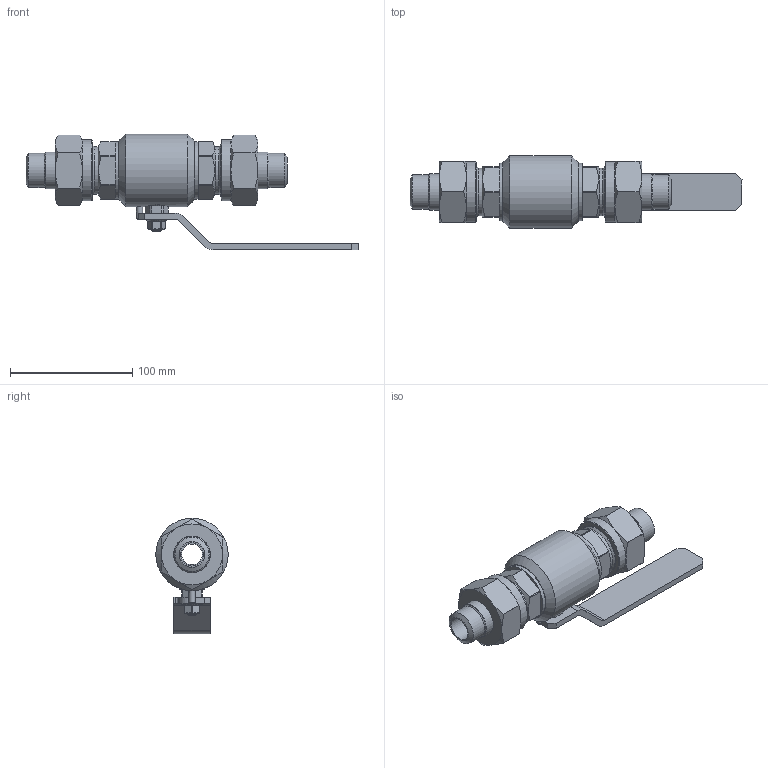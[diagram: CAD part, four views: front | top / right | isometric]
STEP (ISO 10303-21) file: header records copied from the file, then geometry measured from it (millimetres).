
FILE_DESCRIPTION(('STEP AP203'), '1');
FILE_NAME('ZARD 020.200.30.P.stp', '2013-12-05T12:55:24', ('User'), ('Computer'), 'ASCON STEP Converter 1.3', 'Kompas 3D', '');
FILE_SCHEMA(('CONFIG_CONTROL_DESIGN','SUPPORT_RESOURCE_SCHEMA'));
Length unit declared in the file: millimetre
Products named in the file (1): 196
Bounding box: 272 x 59.3 x 94.65 mm (x, y, z)
Volume: 327038 mm3; surface area: 77090.5 mm2
Topology: 1 solids, 6 shells, 262 faces, 601 edges, 370 vertices
Faces by surface type: plane 122, cylinder 69, cone 58, torus 9, bspline 4
Full cylindrical faces by diameter (mm): 5 x2, 8 x1, 10.7 x1, 10.917 x1, 12 x1, 12.1 x1, 17 x2, 19 x2, 19.8 x1, 20 x2, 28 x2, 30 x4, 33.3 x2, 38.4 x1, 39 x2, 39.835 x2, 42 x2, 47 x2, 50 x2, 59.3 x1
Entity records: 9974 total; most frequent: CARTESIAN_POINT 3913, DIRECTION 1308, ORIENTED_EDGE 1202, EDGE_CURVE 601, AXIS2_PLACEMENT_3D 528, VERTEX_POINT 370, EDGE_LOOP 291, CIRCLE 269
